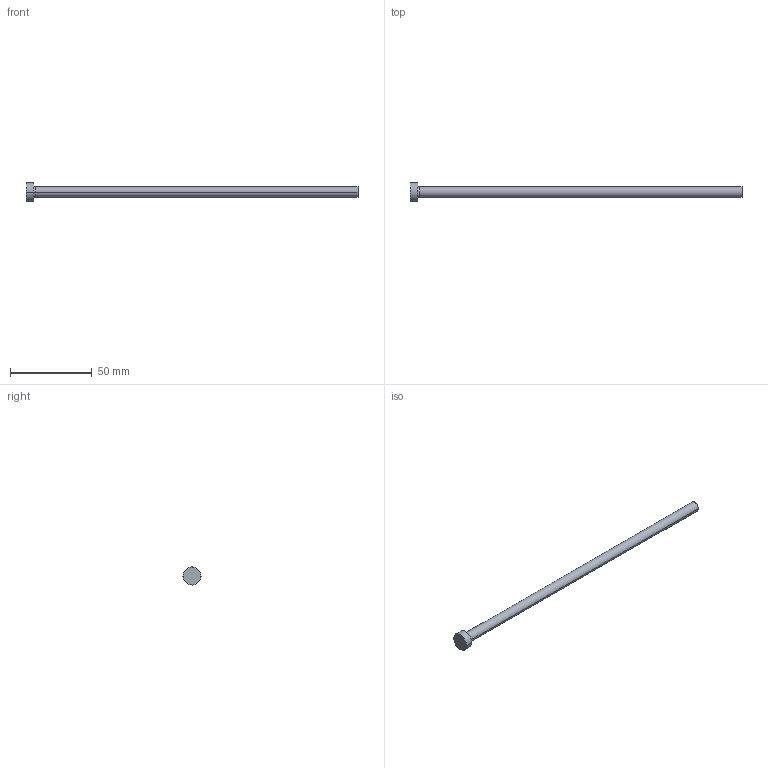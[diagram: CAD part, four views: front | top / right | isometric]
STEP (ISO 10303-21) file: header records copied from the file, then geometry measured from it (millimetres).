
FILE_DESCRIPTION (( 'STEP AP214' ), '1' );
FILE_NAME ('P17-8.STEP', '2020-03-11T18:40:41', ( '' ), ( '' ), 'SwSTEP 2.0', 'SolidWorks 2018', '' );
FILE_SCHEMA (( 'AUTOMOTIVE_DESIGN' ));
Length unit declared in the file: inch
Products named in the file (1): P17-8
Bounding box: 203.2 x 11.11 x 11.11 mm (x, y, z)
Volume: 6733.4 mm3; surface area: 4303.7 mm2
Topology: 1 solids, 1 shells, 13 faces, 24 edges, 14 vertices
Faces by surface type: cone 4, cylinder 4, plane 3, torus 2
Entity records: 366 total; most frequent: DIRECTION 68, CARTESIAN_POINT 52, ORIENTED_EDGE 48, AXIS2_PLACEMENT_3D 30, EDGE_CURVE 24, CIRCLE 16, EDGE_LOOP 14, VERTEX_POINT 14
